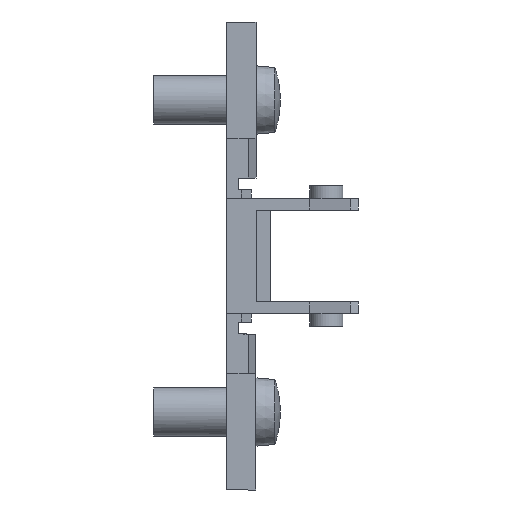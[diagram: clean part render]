
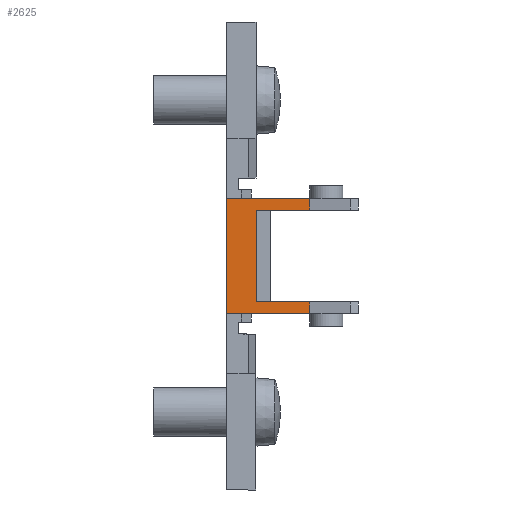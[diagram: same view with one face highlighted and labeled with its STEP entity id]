
A CAD part, front view. The second image highlights one B-rep face of the part: STEP entity #2625.
In plain terms, the highlighted planar face has unit normal (0, -1, 0).
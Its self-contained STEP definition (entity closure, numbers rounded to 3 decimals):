
#171 = VERTEX_POINT ( 'NONE', #3875 ) ;
#219 = VERTEX_POINT ( 'NONE', #3955 ) ;
#220 = VERTEX_POINT ( 'NONE', #3764 ) ;
#223 = VERTEX_POINT ( 'NONE', #3825 ) ;
#227 = VERTEX_POINT ( 'NONE', #4001 ) ;
#250 = VERTEX_POINT ( 'NONE', #3950 ) ;
#253 = VERTEX_POINT ( 'NONE', #3752 ) ;
#260 = VERTEX_POINT ( 'NONE', #3748 ) ;
#371 = CARTESIAN_POINT ( 'NONE',  ( 13.5, -25.55, 4.7 ) ) ;
#372 = DIRECTION ( 'NONE',  ( 1., 0., 0. ) ) ;
#458 = PLANE ( 'NONE',  #4302 ) ;
#461 = CARTESIAN_POINT ( 'NONE',  ( 13.5, -25.55, -5.9 ) ) ;
#467 = DIRECTION ( 'NONE',  ( 0., -1., 0. ) ) ;
#468 = DIRECTION ( 'NONE',  ( -1., 0., 0. ) ) ;
#904 = CARTESIAN_POINT ( 'NONE',  ( 13.5, -25.55, -4.7 ) ) ;
#913 = DIRECTION ( 'NONE',  ( 1., 0., 0. ) ) ;
#935 = CARTESIAN_POINT ( 'NONE',  ( 0., -25.55, 15.37 ) ) ;
#941 = CARTESIAN_POINT ( 'NONE',  ( 8.523, -25.55, 67.733 ) ) ;
#942 = DIRECTION ( 'NONE',  ( 0., 0., -1. ) ) ;
#946 = DIRECTION ( 'NONE',  ( 0., 0., -1. ) ) ;
#1091 = CARTESIAN_POINT ( 'NONE',  ( 1.5, -25.55, -5.9 ) ) ;
#1100 = DIRECTION ( 'NONE',  ( 1., 0., 0. ) ) ;
#1139 = CARTESIAN_POINT ( 'NONE',  ( 8.523, -25.55, 67.733 ) ) ;
#1142 = DIRECTION ( 'NONE',  ( 0., 0., -1. ) ) ;
#1258 = CARTESIAN_POINT ( 'NONE',  ( 13.5, -25.55, 5.9 ) ) ;
#1259 = DIRECTION ( 'NONE',  ( -1., 0., 0. ) ) ;
#1416 = CARTESIAN_POINT ( 'NONE',  ( 3., -25.55, -5.9 ) ) ;
#1417 = DIRECTION ( 'NONE',  ( 0., 0., -1. ) ) ;
#1661 = VECTOR ( 'NONE', #913, 1000. ) ;
#1666 = LINE ( 'NONE', #941, #1693 ) ;
#1667 = LINE ( 'NONE', #904, #1661 ) ;
#1687 = VECTOR ( 'NONE', #942, 1000. ) ;
#1689 = LINE ( 'NONE', #935, #1687 ) ;
#1693 = VECTOR ( 'NONE', #946, 1000. ) ;
#1803 = LINE ( 'NONE', #1139, #1853 ) ;
#1808 = VECTOR ( 'NONE', #1100, 1000. ) ;
#1816 = LINE ( 'NONE', #1091, #1808 ) ;
#1853 = VECTOR ( 'NONE', #1142, 1000. ) ;
#1950 = LINE ( 'NONE', #1258, #1951 ) ;
#1951 = VECTOR ( 'NONE', #1259, 1000. ) ;
#2080 = LINE ( 'NONE', #1416, #2081 ) ;
#2081 = VECTOR ( 'NONE', #1417, 1000. ) ;
#2300 = EDGE_CURVE ( 'NONE', #227, #171, #2607, .T. ) ;
#2528 = FACE_OUTER_BOUND ( 'NONE', #3354, .T. ) ;
#2601 = VECTOR ( 'NONE', #372, 1000. ) ;
#2607 = LINE ( 'NONE', #371, #2601 ) ;
#2625 = ADVANCED_FACE ( 'NONE', ( #2528 ), #458, .T. ) ;
#2834 = ORIENTED_EDGE ( 'NONE', *, *, #4047, .T. ) ;
#2835 = ORIENTED_EDGE ( 'NONE', *, *, #4052, .F. ) ;
#2836 = ORIENTED_EDGE ( 'NONE', *, *, #4207, .F. ) ;
#2837 = ORIENTED_EDGE ( 'NONE', *, *, #2300, .T. ) ;
#2909 = ORIENTED_EDGE ( 'NONE', *, *, #4415, .F. ) ;
#2938 = ORIENTED_EDGE ( 'NONE', *, *, #4175, .T. ) ;
#2943 = ORIENTED_EDGE ( 'NONE', *, *, #4291, .T. ) ;
#2966 = ORIENTED_EDGE ( 'NONE', *, *, #4017, .F. ) ;
#3354 = EDGE_LOOP ( 'NONE', ( #2909, #2837, #2836, #2943, #2834, #2938, #2835, #2966 ) ) ;
#3748 = CARTESIAN_POINT ( 'NONE',  ( 8.523, -25.55, 5.9 ) ) ;
#3752 = CARTESIAN_POINT ( 'NONE',  ( 0., -25.55, 5.9 ) ) ;
#3764 = CARTESIAN_POINT ( 'NONE',  ( 8.523, -25.55, -4.7 ) ) ;
#3825 = CARTESIAN_POINT ( 'NONE',  ( 3., -25.55, -4.7 ) ) ;
#3875 = CARTESIAN_POINT ( 'NONE',  ( 8.523, -25.55, 4.7 ) ) ;
#3950 = CARTESIAN_POINT ( 'NONE',  ( 8.523, -25.55, -5.9 ) ) ;
#3955 = CARTESIAN_POINT ( 'NONE',  ( 0., -25.55, -5.9 ) ) ;
#4001 = CARTESIAN_POINT ( 'NONE',  ( 3., -25.55, 4.7 ) ) ;
#4017 = EDGE_CURVE ( 'NONE', #223, #220, #1667, .T. ) ;
#4047 = EDGE_CURVE ( 'NONE', #253, #219, #1689, .T. ) ;
#4052 = EDGE_CURVE ( 'NONE', #220, #250, #1666, .T. ) ;
#4175 = EDGE_CURVE ( 'NONE', #219, #250, #1816, .T. ) ;
#4207 = EDGE_CURVE ( 'NONE', #260, #171, #1803, .T. ) ;
#4291 = EDGE_CURVE ( 'NONE', #260, #253, #1950, .T. ) ;
#4302 = AXIS2_PLACEMENT_3D ( 'NONE', #461, #467, #468 ) ;
#4415 = EDGE_CURVE ( 'NONE', #227, #223, #2080, .T. ) ;
